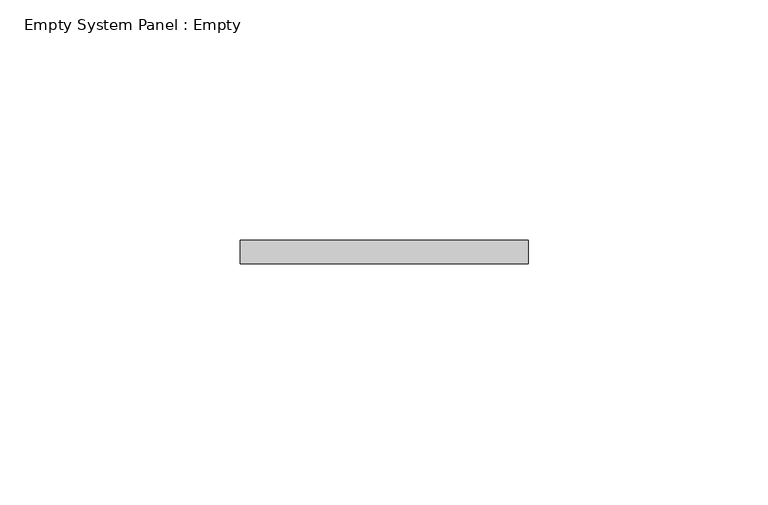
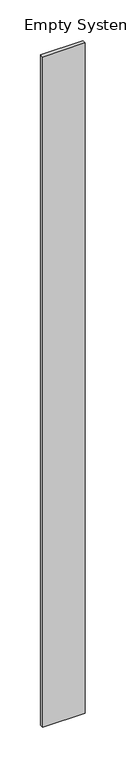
"""IFC4 building model written with IfcOpenShell, lengths in millimetres: plate geometry, Empty System Panel : Empty."""

from ifc_helpers import new_model, si_unit, origin, origin_with_axes, place, context, project, spatial, polyline, outline, extrude, source, transform, mapped, element, save


def empty_system_panel_empty_0988e1f0(model_context):
    return source(origin(), model_context, "Body", "SweptSolid", [
        extrude(outline(polyline([(30.0, -102.5), (-30.0, -102.5), (-30.0, -97.5), (30.0, -97.5), (30.0, -102.5)])), origin_with_axes(), (0.0, 0.0, 1.0), 1000.0),
    ])


if __name__ == "__main__":
    model = new_model("IFC4")
    model_context = context("Model", 3, world=origin())
    ifc_project = project(units=[si_unit("LENGTHUNIT", "METRE", prefix="MILLI")], contexts=[model_context])
    site = spatial("IfcSite", under=ifc_project)
    building = spatial("IfcBuilding", under=site)
    placement = place(None, origin())
    empty_system_panel_empty_shape = empty_system_panel_empty_0988e1f0(model_context)
    element("IfcPlate", 1, ObjectType="Empty System Panel : Empty", at=placement, inside=building, context=model_context, shape_type="MappedRepresentation", body=[
        mapped(empty_system_panel_empty_shape, transform((0.0, 0.0, 0.0), x_axis=(1.0, 0.0, 0.0), y_axis=(0.0, 1.0, 0.0), z_axis=(0.0, 0.0, 1.0))),
    ])
    save(model, "model.ifc")
